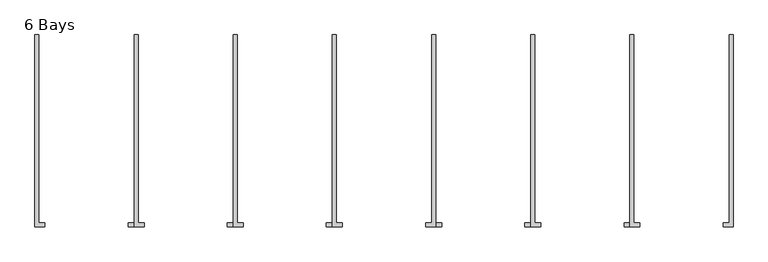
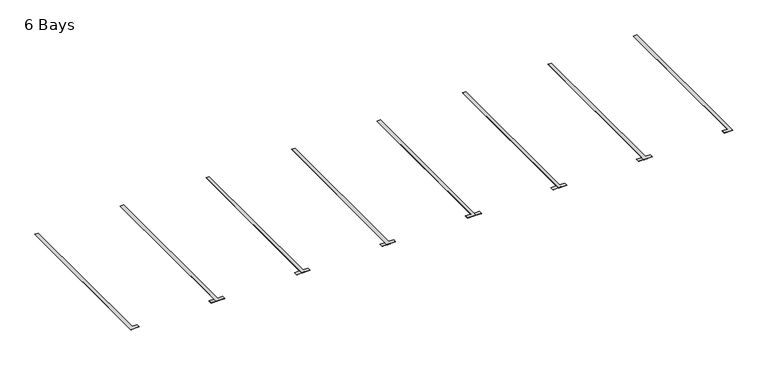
"""IFC4 building model written with IfcOpenShell, lengths in millimetres: proxy geometry, Parking Bays-Standard (wst)rfa : 6 Bays."""

from ifc_helpers import new_model, si_unit, origin, origin_with_axes, place, context, project, spatial, polyline, outline, extrude, source, transform, mapped, element, save


def proxy_6_bays_6980b301(model_context):
    return source(origin(), model_context, "Body", "SweptSolid", [
        extrude(outline(polyline([(17450.0, 0.0), (17550.0, 0.0), (17550.0, -4850.0), (17300.0, -4850.0), (17300.0, -4750.0), (17450.0, -4750.0), (17450.0, 0.0)])), origin_with_axes(), (0.0, 0.0, 1.0), 3.175),
        extrude(outline(polyline([(14950.0, 0.0), (15050.0, 0.0), (15050.0, -4750.0), (15200.0, -4750.0), (15200.0, -4850.0), (14950.0, -4850.0), (14950.0, 0.0)])), origin_with_axes(), (0.0, 0.0, 1.0), 3.175),
        extrude(outline(polyline([(14950.0, 0.0), (15050.0, 0.0), (15050.0, -4850.0), (14800.0, -4850.0), (14800.0, -4750.0), (14950.0, -4750.0), (14950.0, 0.0)])), origin_with_axes(), (0.0, 0.0, 1.0), 3.175),
        extrude(outline(polyline([(12450.0, 0.0), (12550.0, 0.0), (12550.0, -4750.0), (12700.0, -4750.0), (12700.0, -4850.0), (12450.0, -4850.0), (12450.0, 0.0)])), origin_with_axes(), (0.0, 0.0, 1.0), 3.175),
        extrude(outline(polyline([(9950.0, 0.0), (10050.0, 0.0), (10050.0, -4850.0), (9800.0, -4850.0), (9800.0, -4750.0), (9950.0, -4750.0), (9950.0, 0.0)])), origin_with_axes(), (0.0, 0.0, 1.0), 3.175),
        extrude(outline(polyline([(7450.0, 0.0), (7550.0, 0.0), (7550.0, -4750.0), (7700.0, -4750.0), (7700.0, -4850.0), (7450.0, -4850.0), (7450.0, 0.0)])), origin_with_axes(), (0.0, 0.0, 1.0), 3.175),
        extrude(outline(polyline([(7450.0, 0.0), (7550.0, 0.0), (7550.0, -4850.0), (7300.0, -4850.0), (7300.0, -4750.0), (7450.0, -4750.0), (7450.0, 0.0)])), origin_with_axes(), (0.0, 0.0, 1.0), 3.175),
        extrude(outline(polyline([(4950.0, 0.0), (5050.0, 0.0), (5050.0, -4750.0), (5200.0, -4750.0), (5200.0, -4850.0), (4950.0, -4850.0), (4950.0, 0.0)])), origin_with_axes(), (0.0, 0.0, 1.0), 3.175),
        extrude(outline(polyline([(4950.0, 0.0), (5050.0, 0.0), (5050.0, -4850.0), (4800.0, -4850.0), (4800.0, -4750.0), (4950.0, -4750.0), (4950.0, 0.0)])), origin_with_axes(), (0.0, 0.0, 1.0), 3.175),
        extrude(outline(polyline([(2450.0, 0.0), (2550.0, 0.0), (2550.0, -4750.0), (2700.0, -4750.0), (2700.0, -4850.0), (2450.0, -4850.0), (2450.0, 0.0)])), origin_with_axes(), (0.0, 0.0, 1.0), 3.175),
        extrude(outline(polyline([(12450.0, 0.0), (12550.0, 0.0), (12550.0, -4850.0), (12300.0, -4850.0), (12300.0, -4750.0), (12450.0, -4750.0), (12450.0, 0.0)])), origin_with_axes(), (0.0, 0.0, 1.0), 3.175),
        extrude(outline(polyline([(9950.0, 0.0), (10050.0, 0.0), (10050.0, -4750.0), (10200.0, -4750.0), (10200.0, -4850.0), (9950.0, -4850.0), (9950.0, 0.0)])), origin_with_axes(), (0.0, 0.0, 1.0), 3.175),
        extrude(outline(polyline([(2450.0, 0.0), (2550.0, 0.0), (2550.0, -4850.0), (2300.0, -4850.0), (2300.0, -4750.0), (2450.0, -4750.0), (2450.0, 0.0)])), origin_with_axes(), (0.0, 0.0, 1.0), 3.175),
        extrude(outline(polyline([(-50.0, 0.0), (50.0, 0.0), (50.0, -4750.0), (200.0, -4750.0), (200.0, -4850.0), (-50.0, -4850.0), (-50.0, 0.0)])), origin_with_axes(), (0.0, 0.0, 1.0), 3.175),
    ])


if __name__ == "__main__":
    model = new_model("IFC4")
    model_context = context("Model", 3, world=origin())
    ifc_project = project(units=[si_unit("LENGTHUNIT", "METRE", prefix="MILLI")], contexts=[model_context])
    site = spatial("IfcSite", under=ifc_project)
    building = spatial("IfcBuilding", under=site)
    placement = place(None, origin())
    proxy_6_bays_shape = proxy_6_bays_6980b301(model_context)
    element("IfcBuildingElementProxy", 1, Name="Parking Bays-Standard (wst)rfa : 6 Bays", ObjectType="Parking Bays-Standard (wst)rfa : 6 Bays", at=placement, inside=building, context=model_context, shape_type="MappedRepresentation", body=[
        mapped(proxy_6_bays_shape, transform((0.0, 0.0, 0.0), x_axis=(1.0, 0.0, 0.0), y_axis=(0.0, 1.0, 0.0), z_axis=(0.0, 0.0, 1.0))),
    ])
    save(model, "model.ifc")
